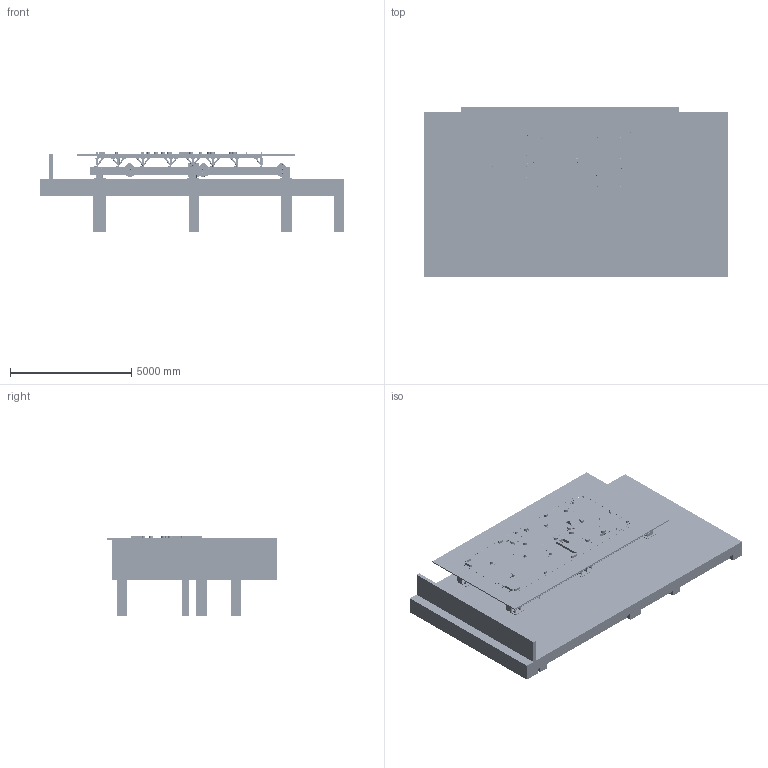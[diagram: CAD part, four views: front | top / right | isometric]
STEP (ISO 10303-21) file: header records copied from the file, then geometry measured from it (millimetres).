
FILE_DESCRIPTION (( 'STEP AP203' ), '1' );
FILE_NAME ('PIC-VIISTA2-000.STEP', '2024-09-20T13:45:15', ( '' ), ( '' ), 'SwSTEP 2.0', 'SolidWorks 2017', '' );
FILE_SCHEMA (( 'CONFIG_CONTROL_DESIGN' ));
Length unit declared in the file: millimetre
Products named in the file (62): PIC-VIISTA2-006_4<Brut d''usinage>; Z-cea viista dalle beton; PIC-VIISTA2-012_D‚faut<Brut d''usinage>; PIC-VIISTA2-011_2<Brut d''usinage>; PIC-VIISTA2-006_3<Brut d''usinage>; Z-screw_din_933-m30x120_100; PIC-VIISTA2-009; Z-Screw_H_SCREW H M10x30-26; PIC-VIISTA2-006_3-1; PIC-VIISTA2-007; PIC-VIISTA2-011_4<Brut d''usinage>; Z-M12 ASSY_96; PIC-VIISTA2-006_4-3<Brut d''usinage>; PIC-VIISTA2-006_3-2<Brut d''usinage>; Z-ECROU HM30_‚crou h M30; PIC-VIISTA2-008_att1; z_NUT_H_NUT H M 20; Z-M12 ASSY2_M20-34; Z-M10 assy; PIC-VIISTA2-011-2_4<Brut d''usinage>; PIC-VIISTA2-008_att1b; PIC-VIISTA2-002; z_NUT_H_NUT H M 12; PIC-VIISTA2-000; Z-Vis H M12_vis H M12-65; Z-cea viista pied old; z_Washer_WASHER M 12; PIC-VIISTA2-008_att3; VIISTA2-ESQ2; PIC-VIISTA2-010; PIC-VIISTA2-006_4-2<Brut d''usinage>; PIC-VIISTA2-005_D‚faut<Brut d''usinage>; PIC-VIISTA2-006_4-3; Z-Tige filetée - M12_M12x150; Z-cea viista dalle fp; z_NUT_H_NUT H M 27; PIC-VIISTA2-012_gousset<Brut d''usinage>; PIC-VIISTA2-003_D‚faut<Brut d''usinage>; PIC-VIISTA2-011_2-2<Brut d''usinage>; PIC-VIISTA2-ESQ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
Assembly tree (506 placements, depth 5):
  PIC-VIISTA2-000
    Z-cea viista dalle fp
    PIC-VIISTA2-010
      PIC-VIISTA2-011_1<Brut d''usinage>  x2
      PIC-VIISTA2-011_2-2<Brut d''usinage>
      PIC-VIISTA2-011_3-1<Brut d''usinage>  x2
      PIC-VIISTA2-011_4<Brut d''usinage>
      PIC-VIISTA2-011_2<Brut d''usinage>
      PIC-VIISTA2-012_D‚faut<Brut d''usinage>  x6
      PIC-VIISTA2-012_gousset<Brut d''usinage>
      PIC-VIISTA2-011-2_4<Brut d''usinage>
      Z-M12 ASSY2_M20-30  x112
        z_Washer_WASHER M 20
        z_NUT_H_NUT H M 20
        Z-din_en_24018_m20x100_70
      Z-M12 ASSY2_M20-34  x56
        z_Washer_WASHER M 20
        z_NUT_H_NUT H M 20
        Z-din_en_24018_m20x100_70
      Z-M12 ASSY2_m27-40  x64
        z_Washer_WASHER M 27
        z_NUT_H_NUT H M 27
        Z-2021027x80
      PIC-VIISTA2-013  x14
    PIC-VIISTA2-002
      PIC-VIISTA2-002-A
        Z-esq viista cea data
        PIC-VIISTA2-003_D‚faut<Brut d''usinage>
        PIC-VIISTA2-004
        PIC-VIISTA2-008_att1b  x4
        PIC-VIISTA2-008_att3  x6
        PIC-VIISTA2-008_att1  x10
        PIC-VIISTA2-008_att2  x34
      PIC-VIISTA2-006_3-2  x9
        PIC-VIISTA2-006_3-2<Brut d''usinage>
        Z-ECROU HM30_‚crou h M30
        PIC-VIISTA2-007
        Z-screw_din_933-m30x120_100
        Z-M10 assy
          Z-Screw_H_SCREW H M10x30-26
          Z-Washer_WASHER M 10
      PIC-VIISTA2-006_4-2  x2
        PIC-VIISTA2-006_4-2<Brut d''usinage>
        Z-ECROU HM30_‚crou h M30
        PIC-VIISTA2-007
        Z-screw_din_933-m30x120_100
        Z-M10 assy
          Z-Screw_H_SCREW H M10x30-26
          Z-Washer_WASHER M 10
      PIC-VIISTA2-006_4-3  x5
        PIC-VIISTA2-006_4-3<Brut d''usinage>
        Z-ECROU HM30_‚crou h M30
        PIC-VIISTA2-007
        Z-screw_din_933-m30x120_100
        Z-M10 assy
          Z-Screw_H_SCREW H M10x30-26
          Z-Washer_WASHER M 10
      PIC-VIISTA2-006_1  x3
        PIC-VIISTA2-006_1<Brut d''usinage>
        Z-ECROU HM30_‚crou h M30
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Bounding box: 12550 x 7032.24 x 3301.5 mm (x, y, z)
Volume: 35847989820.6 mm3; surface area: 606030286 mm2
Topology: 2760 solids, 2760 shells, 40044 faces, 92430 edges, 58901 vertices
Faces by surface type: plane 18515, cylinder 12509, cone 8472, bspline 548
Entity records: 335887 total; most frequent: CARTESIAN_POINT 59096, DIRECTION 54418, ORIENTED_EDGE 51802, EDGE_CURVE 25901, AXIS2_PLACEMENT_3D 18695, LINE 17028, VECTOR 17028, VERTEX_POINT 17001
